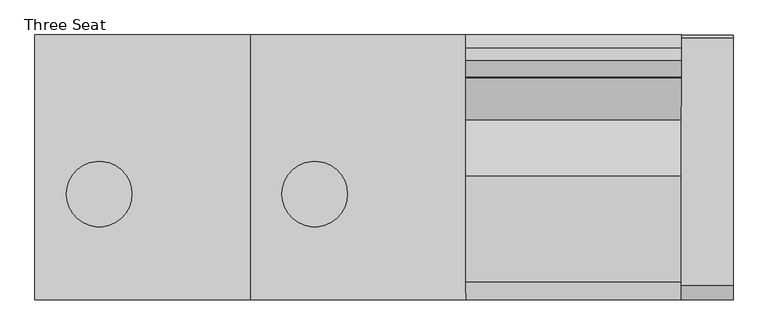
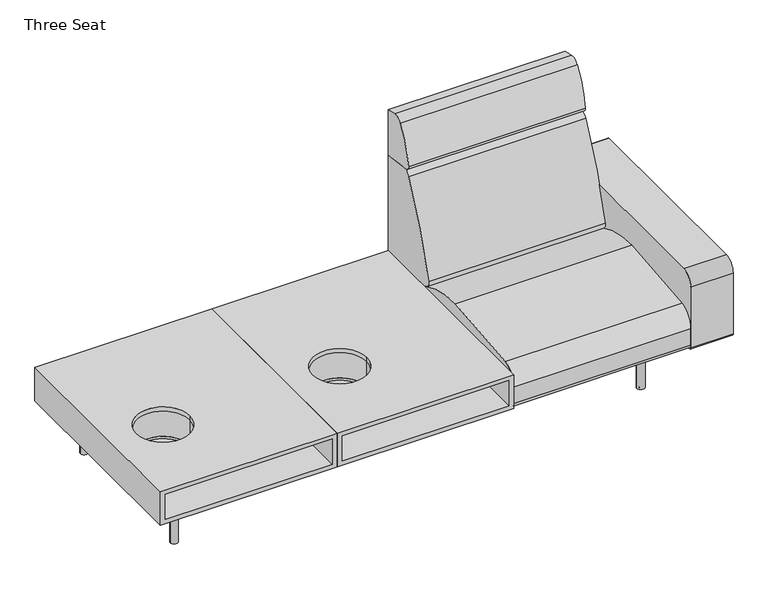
"""IFC4 building model written with IfcOpenShell, lengths in millimetres: furniture geometry, Coalesse_AM_Seating_LoungeChair_Sistema_LegBase_ThreeSeat : Three Seat."""

import ifcopenshell
import ifcopenshell.guid

model = None  # the IFC model being written
_history = None  # IfcOwnerHistory: only IFC2X3 demands one
_inside = {}  # id of a spatial element -> (the spatial element, [elements in it])
_under = {}  # id of a project, library or spatial element -> (it, [spatial elements below it])
_declared = {}  # id of a project -> (the project, [libraries it declares])
_typed = {}  # id of a type object -> (the type object, [elements of that type])
_made_of = {}  # id of a material, layer set ... -> (it, [elements and type objects made of it])


def new_model(schema):
    """Start an empty IFC model of exactly this schema.

    Asked for "IFC4X3", IfcOpenShell would pick the latest addendum, in which some entities
    have other attributes; the version numbers below select the first issue.
    IFC2X3 requires an IfcOwnerHistory on every rooted entity: one is made here for all.
    """
    global model, _history
    if schema == "IFC4X3":
        model = ifcopenshell.file(schema_version=(4, 3, 0, 0))
    else:
        model = ifcopenshell.file(schema=schema)
    _inside.clear()
    _under.clear()
    _declared.clear()
    _typed.clear()
    _made_of.clear()
    _history = None
    if model.schema == "IFC2X3":
        org = make("IfcOrganization", Name="unknown")
        user = make(
            "IfcPersonAndOrganization",
            ThePerson=make("IfcPerson", FamilyName="unknown"),
            TheOrganization=org,
        )
        app = make(
            "IfcApplication",
            ApplicationDeveloper=org,
            Version="unknown",
            ApplicationFullName="unknown",
            ApplicationIdentifier="unknown",
        )
        _history = make(
            "IfcOwnerHistory",
            OwningUser=user,
            OwningApplication=app,
            ChangeAction="ADDED",
            CreationDate=0,
        )
    return model


def make(cls, **values):
    """One entity of the class cls with the attributes given. An attribute that is None is left unset."""
    return model.create_entity(
        cls, **{name: value for name, value in values.items() if value is not None}
    )


def rooted(cls, **values):
    """An entity with a GlobalId (a new one), such as an element, a storey or a relation."""
    return make(cls, GlobalId=ifcopenshell.guid.new(), OwnerHistory=_history, **values)


def si_unit(unit_type, name, prefix=None):
    """IfcSIUnit, for example si_unit("LENGTHUNIT", "METRE", prefix="MILLI")."""
    return make("IfcSIUnit", UnitType=unit_type, Prefix=prefix, Name=name)


def assignment(units):
    """IfcUnitAssignment: the units of a project."""
    return None if units is None else make("IfcUnitAssignment", Units=units)


def point(xyz):
    """IfcCartesianPoint."""
    return None if xyz is None else make("IfcCartesianPoint", Coordinates=xyz)


def direction(xyz):
    """IfcDirection."""
    return None if xyz is None else make("IfcDirection", DirectionRatios=xyz)


def frame(location, z_axis=None, x_axis=None):
    """IfcAxis2Placement3D, a coordinate frame: its origin and axes. An axis left out is left unset."""
    return make(
        "IfcAxis2Placement3D",
        Location=point(location),
        Axis=direction(z_axis),
        RefDirection=direction(x_axis),
    )


def frame_2d(location, x_axis=None):
    """IfcAxis2Placement2D, a coordinate frame in the plane: its origin and x axis."""
    return make(
        "IfcAxis2Placement2D", Location=point(location), RefDirection=direction(x_axis)
    )


def origin():
    """The frame at (0, 0, 0) with its axes left unset."""
    return frame((0.0, 0.0, 0.0))


def origin_with_axes():
    """The frame at (0, 0, 0) with the z axis (0, 0, 1) and the x axis (1, 0, 0) written out."""
    return frame((0.0, 0.0, 0.0), z_axis=(0.0, 0.0, 1.0), x_axis=(1.0, 0.0, 0.0))


def place(relative_to, where):
    """IfcLocalPlacement: puts the frame where relative to a parent placement (None: the world)."""
    return make(
        "IfcLocalPlacement", PlacementRelTo=relative_to, RelativePlacement=where
    )


def context(
    kind, dimensions, precision=None, world=None, true_north=None, identifier=None
):
    """IfcGeometricRepresentationContext, for example the 3D "Model" context."""
    return make(
        "IfcGeometricRepresentationContext",
        ContextIdentifier=identifier,
        ContextType=kind,
        CoordinateSpaceDimension=dimensions,
        Precision=precision,
        WorldCoordinateSystem=world,
        TrueNorth=true_north,
    )


def project(units=None, contexts=None):
    """IfcProject with its units and contexts."""
    return rooted(
        "IfcProject",
        Name="project",
        RepresentationContexts=contexts,
        UnitsInContext=assignment(units),
    )


def spatial(cls, under=None, at=None, **own):
    """A site, building, storey or space (cls), placed at a placement, below another one or the project."""
    s = rooted(cls, ObjectPlacement=at, **own)
    if under is not None:
        _under.setdefault(under.id(), (under, []))[1].append(s)
    return s


def polyline(points):
    """IfcPolyline through the points."""
    return make("IfcPolyline", Points=[point(p) for p in points])


def circle_curve(where, radius):
    """IfcCircle in the frame where."""
    return make("IfcCircle", Position=where, Radius=radius)


def trimmed(basis, trim1, trim2, sense, master):
    """IfcTrimmedCurve: the piece of a basis curve between two trims."""
    return make(
        "IfcTrimmedCurve",
        BasisCurve=basis,
        Trim1=trim1,
        Trim2=trim2,
        SenseAgreement=sense,
        MasterRepresentation=master,
    )


def segment(curve, same_sense, transition):
    """IfcCompositeCurveSegment."""
    return make(
        "IfcCompositeCurveSegment",
        Transition=transition,
        SameSense=same_sense,
        ParentCurve=curve,
    )


def composite_curve(segments, self_intersect=None):
    """IfcCompositeCurve: segments joined end to end."""
    return make("IfcCompositeCurve", Segments=segments, SelfIntersect=self_intersect)


def outline(outer, holes=None, kind="AREA"):
    """IfcArbitraryClosedProfileDef: a profile drawn as a closed curve; with holes, ...WithVoids."""
    if holes is None:
        return make("IfcArbitraryClosedProfileDef", ProfileType=kind, OuterCurve=outer)
    return make(
        "IfcArbitraryProfileDefWithVoids",
        ProfileType=kind,
        OuterCurve=outer,
        InnerCurves=holes,
    )


def extrude(swept, where, along, depth):
    """IfcExtrudedAreaSolid: the profile swept, set in the frame where, extruded along a direction by depth."""
    return make(
        "IfcExtrudedAreaSolid",
        SweptArea=swept,
        Position=where,
        ExtrudedDirection=direction(along),
        Depth=depth,
    )


def shape(context_of_items, identifier, shape_type, items):
    """IfcShapeRepresentation: the items that make up one representation, for example the "Body"."""
    return make(
        "IfcShapeRepresentation",
        ContextOfItems=context_of_items,
        RepresentationIdentifier=identifier,
        RepresentationType=shape_type,
        Items=items,
    )


def source(mapping_origin, context_of_items, identifier, shape_type, items):
    """IfcRepresentationMap: a shape defined once, which mapped items show again and again."""
    return make(
        "IfcRepresentationMap",
        MappingOrigin=mapping_origin,
        MappedRepresentation=shape(context_of_items, identifier, shape_type, items),
    )


def transform(
    local_origin,
    x_axis=None,
    y_axis=None,
    z_axis=None,
    scale=None,
    scale2=None,
    scale3=None,
    uniform=True,
):
    """IfcCartesianTransformationOperator3D, or its non-uniform kind. x_axis, y_axis, z_axis: its Axis1, 2, 3."""
    if uniform:
        return make(
            "IfcCartesianTransformationOperator3D",
            Axis1=direction(x_axis),
            Axis2=direction(y_axis),
            LocalOrigin=point(local_origin),
            Scale=scale,
            Axis3=direction(z_axis),
        )
    return make(
        "IfcCartesianTransformationOperator3DnonUniform",
        Axis1=direction(x_axis),
        Axis2=direction(y_axis),
        LocalOrigin=point(local_origin),
        Scale=scale,
        Axis3=direction(z_axis),
        Scale2=scale2,
        Scale3=scale3,
    )


def mapped(mapping_source, mapping_target):
    """IfcMappedItem: shows the shape of a source again, moved by a transform."""
    return make(
        "IfcMappedItem", MappingSource=mapping_source, MappingTarget=mapping_target
    )


def made_of(thing, what):
    """Note that an element or type object is made of a material, layer set ...; save() writes the relation."""
    if what is not None:
        _made_of.setdefault(what.id(), (what, []))[1].append(thing)
    return thing


def element(
    cls,
    number,
    at=None,
    inside=None,
    cuts=None,
    type_object=None,
    material=None,
    context=None,
    identifier="Body",
    shape_type=None,
    held_by="IfcProductDefinitionShape",
    body=None,
    shapes=None,
    **own,
):
    """One element of the class cls, such as IfcWall. Its Tag is "e" and its number.

    at: its placement. inside: the storey or other place that contains it. cuts: it is an
    opening in that element (IfcRelVoidsElement). A single representation is given by context,
    identifier, shape_type and body (its items); several are given by shapes. held_by: the class
    of the entity that holds the representations. save() writes the other relations.
    """
    e = rooted(cls, Tag="e%d" % number, ObjectPlacement=at, **own)
    if body is not None:
        shapes = [shape(context, identifier, shape_type, body)]
    if shapes is not None:
        e.Representation = make(held_by, Representations=shapes)
    if inside is not None:
        _inside.setdefault(inside.id(), (inside, []))[1].append(e)
    if cuts is not None:
        rooted(
            "IfcRelVoidsElement", RelatingBuildingElement=cuts, RelatedOpeningElement=e
        )
    if type_object is not None:
        _typed.setdefault(type_object.id(), (type_object, []))[1].append(e)
    return made_of(e, material)


def aggregate(whole, parts):
    """IfcRelAggregates: a whole, such as a stair, and the parts it consists of."""
    return rooted("IfcRelAggregates", RelatingObject=whole, RelatedObjects=parts)


def save(model, path):
    """Write the relations noted so far, then the file.

    IfcRelAggregates (storeys below a building ...), IfcRelContainedInSpatialStructure (elements
    in a storey), IfcRelDefinesByType, IfcRelAssociatesMaterial and IfcRelDeclares: one each for
    every whole, place, type object, material and project.
    """
    for whole, parts in _under.values():
        aggregate(whole, parts)
    for where, things in _inside.values():
        rooted(
            "IfcRelContainedInSpatialStructure",
            RelatedElements=things,
            RelatingStructure=where,
        )
    for kind, things in _typed.values():
        rooted("IfcRelDefinesByType", RelatedObjects=things, RelatingType=kind)
    for what, things in _made_of.values():
        rooted("IfcRelAssociatesMaterial", RelatedObjects=things, RelatingMaterial=what)
    for by, libraries in _declared.values():
        rooted("IfcRelDeclares", RelatingContext=by, RelatedDefinitions=libraries)
    model.write(path)


def plane_surface(at):
    """IfcPlane: the flat surface through the origin of the frame at, square to its z axis."""
    return make("IfcPlane", Position=at)


def revolved_surface(curve, axis_point, axis_direction):
    """IfcSurfaceOfRevolution: the curve turned about the line through axis_point along axis_direction."""
    return make(
        "IfcSurfaceOfRevolution",
        SweptCurve=make("IfcArbitraryOpenProfileDef", ProfileType="CURVE", Curve=curve),
        AxisPosition=make("IfcAxis1Placement", Location=point(axis_point), Axis=direction(axis_direction)),
    )


def advanced_brep(points, edges, surfaces, faces):
    """IfcAdvancedBrep: a solid bounded by faces that lie on surfaces and meet in shared edges.

    An edge is (start, end): straight between two places in points (the first is 0);
    or (start, end, curve); or (start, end, curve, False) where it runs against its curve.
    A face is (place in surfaces, loops), or (place, loops, False) where it looks against
    its surface's normal. A loop lists edges by number (the first is 1), with a minus sign
    where the edge is run from its end to its start. The first loop is the outer one.
    """
    corners = [point(p) for p in points]
    vertices = [make("IfcVertexPoint", VertexGeometry=c) for c in corners]
    made = []
    for start, end, *more in edges:
        made.append(
            make(
                "IfcEdgeCurve",
                EdgeStart=vertices[start],
                EdgeEnd=vertices[end],
                EdgeGeometry=more[0] if more else make("IfcPolyline", Points=[corners[start], corners[end]]),
                SameSense=more[1] if len(more) > 1 else True,
            )
        )
    hull = []
    for where, loops, *sense in faces:
        bounds = []
        for j, loop in enumerate(loops):
            ring = [make("IfcOrientedEdge", EdgeElement=made[abs(k) - 1], Orientation=k > 0) for k in loop]
            bounds.append(
                make(
                    "IfcFaceOuterBound" if j == 0 else "IfcFaceBound",
                    Bound=make("IfcEdgeLoop", EdgeList=ring),
                    Orientation=True,
                )
            )
        hull.append(make("IfcAdvancedFace", Bounds=bounds, FaceSurface=surfaces[where], SameSense=sense[0] if sense else True))
    return make("IfcAdvancedBrep", Outer=make("IfcClosedShell", CfsFaces=hull))


def three_seat_0f8700ea(model_context):
    return source(origin(), model_context, "Body", "SolidModel", [
        advanced_brep(
        [(-353.0071698, -461.2704381, 336.5211742), (-353.0071698, -461.2704381, 223.173587), (-353.0071698, 459.4795619, 223.173587), (-353.0071698, 459.4795619, 336.5211742), (353.6069667, -461.2704381, 336.5211742), (353.6069667, 459.4795619, 336.5211742), (-37.7047777, -93.7879891, 336.5211742), (-265.0667966, -93.7879891, 336.5211742), (374.4965227, -461.2704381, 354.7774), (-374.8034773, -461.2704381, 354.7774), (-374.8034773, -461.2704381, 204.47), (374.4965227, -461.2704381, 204.47), (353.6069667, -461.2704381, 223.173587), (374.4965227, 459.4795619, 354.7774), (374.4965227, 459.4795619, 204.47), (-374.8034773, 459.4795619, 204.47), (-374.8034773, 459.4795619, 354.7774), (353.6069667, 459.4795619, 223.173587), (-265.0667966, -93.7879891, 354.7774), (-37.7047777, -93.7879891, 354.7774), (-265.0667966, -93.7879891, 223.173587), (-37.7047777, -93.7879891, 223.173587), (-265.0667966, -93.7879891, 212.4123377), (-37.7047777, -93.7879891, 212.4123377)],
        [
            (0, 1),
            (1, 2),
            (2, 3),
            (3, 0),
            (4, 0),
            (3, 5),
            (5, 4),
            (6, 7, circle_curve(frame((-151.3857872, -93.7879891, 336.5211742), z_axis=(0.0, 0.0, 1.0), x_axis=(1.0, 0.0, 0.0)), 113.6810095)),
            (7, 6, circle_curve(frame((-151.3857872, -93.7879891, 336.5211742), z_axis=(0.0, 0.0, 1.0), x_axis=(1.0, 0.0, 0.0)), 113.6810095)),
            (8, 9),
            (9, 10),
            (10, 11),
            (11, 8),
            (4, 12),
            (12, 1),
            (13, 14),
            (14, 15),
            (15, 16),
            (16, 13),
            (2, 17),
            (17, 5),
            (8, 13),
            (16, 9),
            (18, 19, circle_curve(frame((-151.3857872, -93.7879891, 354.7774), z_axis=(0.0, 0.0, -1.0), x_axis=(1.0, 0.0, 0.0)), 113.6810095)),
            (19, 18, circle_curve(frame((-151.3857872, -93.7879891, 354.7774), z_axis=(0.0, 0.0, -1.0), x_axis=(1.0, 0.0, 0.0)), 113.6810095)),
            (15, 10),
            (14, 11),
            (17, 12),
            (20, 21, circle_curve(frame((-151.3857872, -93.7879891, 223.173587), z_axis=(0.0, 0.0, -1.0), x_axis=(1.0, 0.0, 0.0)), 113.6810095)),
            (21, 20, circle_curve(frame((-151.3857872, -93.7879891, 223.173587), z_axis=(0.0, 0.0, -1.0), x_axis=(1.0, 0.0, 0.0)), 113.6810095)),
            (22, 23, circle_curve(frame((-151.3857872, -93.7879891, 212.4123377), z_axis=(0.0, 0.0, 1.0), x_axis=(1.0, 0.0, 0.0)), 113.6810095)),
            (23, 22, circle_curve(frame((-151.3857872, -93.7879891, 212.4123377), z_axis=(0.0, 0.0, 1.0), x_axis=(1.0, 0.0, 0.0)), 113.6810095)),
            (23, 21),
            (20, 22),
            (18, 7),
            (6, 19),
        ],
        [
            plane_surface(frame((-353.0071698, -461.2704381, 223.173587), z_axis=(1.0, 0.0, 0.0), x_axis=(0.0, 1.0, 0.0))),
            plane_surface(frame((-353.0071698, -461.2704381, 336.5211742), z_axis=(0.0, 0.0, -1.0), x_axis=(0.0, 1.0, 0.0))),
            plane_surface(frame((-371.2653576, -461.2704381, 354.7774), z_axis=(0.0, -1.0, 0.0), x_axis=(-1.0, 0.0, 0.0))),
            plane_surface(frame((-371.2653576, 459.4795619, 354.7774), z_axis=(0.0, 1.0, 0.0), x_axis=(1.0, 0.0, 0.0))),
            plane_surface(frame((374.4965227, -461.2704381, 354.7774), z_axis=(0.0, 0.0, 1.0), x_axis=(0.0, 1.0, 0.0))),
            plane_surface(frame((-374.8034773, -461.2704381, 354.7774), z_axis=(-1.0, 0.0, 0.0), x_axis=(0.0, 1.0, 0.0))),
            plane_surface(frame((-374.8034773, -461.2704381, 204.47), z_axis=(0.0, 0.0, -1.0), x_axis=(0.0, 1.0, 0.0))),
            plane_surface(frame((374.4965227, -461.2704381, 204.47), z_axis=(1.0, 0.0, 0.0), x_axis=(0.0, 1.0, 0.0))),
            plane_surface(frame((353.6069667, -461.2704381, 336.5211742), z_axis=(-1.0, 0.0, 0.0), x_axis=(0.0, 1.0, 0.0))),
            plane_surface(frame((353.6069667, -461.2704381, 223.173587), z_axis=(0.0, 0.0, 1.0), x_axis=(0.0, 1.0, 0.0))),
            plane_surface(frame((-37.7047777, -93.7879891, 212.4123377), z_axis=(0.0, 0.0, 1.0), x_axis=(0.0, -1.0, 0.0))),
            revolved_surface(polyline([(-37.70477770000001, -93.7879891, 212.4123377), (-37.70477770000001, -93.7879891, 223.173587)]), (-151.3857872, -93.7879891, 446.6108932), (0.0, 0.0, -1.0)),
            revolved_surface(polyline([(-37.70477770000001, -93.7879891, 336.5211742), (-37.70477770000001, -93.7879891, 354.7774)]), (-151.3857872, -93.7879891, 446.6108932), (0.0, 0.0, -1.0)),
        ],
        [
            (0, [[1, 2, 3, 4]]),
            (1, [[5, -4, 6, 7], [8, 9]]),
            (2, [[10, 11, 12, 13], [14, 15, -1, -5]]),
            (3, [[16, 17, 18, 19], [-6, -3, 20, 21]]),
            (4, [[-10, 22, -19, 23], [24, 25]]),
            (5, [[-11, -23, -18, 26]]),
            (6, [[-12, -26, -17, 27]]),
            (7, [[-13, -27, -16, -22]]),
            (8, [[-14, -7, -21, 28]]),
            (9, [[-15, -28, -20, -2], [29, 30]]),
            (10, [[31, 32]]),
            (11, [[-32, 33, -29, 34]]),
            (12, [[35, -8, 36, -24]]),
            (12, [[-35, -25, -36, -9]]),
            (11, [[-31, -34, -30, -33]]),
        ],
    ),
        extrude(outline(composite_curve([segment(trimmed(circle_curve(frame_2d((-151.3857872, -93.7879891)), 127.924967), [point((-279.3107542, -93.7879891))], [point((-23.4608201, -93.7879891))], False, "CARTESIAN"), True, "CONTINUOUS"), segment(trimmed(circle_curve(frame_2d((-151.3857872, -93.7879891)), 127.924967), [point((-23.4608201, -93.7879891))], [point((-279.3107542, -93.7879891))], False, "CARTESIAN"), True, "CONTINUOUS")], self_intersect=False), holes=[composite_curve([segment(trimmed(circle_curve(frame_2d((-151.3857872, -93.7879891)), 113.6810095), [point((-265.0667966, -93.7879891))], [point((-37.7047777, -93.7879891))], True, "CARTESIAN"), True, "CONTINUOUS"), segment(trimmed(circle_curve(frame_2d((-151.3857872, -93.7879891)), 113.6810095), [point((-37.7047777, -93.7879891))], [point((-265.0667966, -93.7879891))], True, "CARTESIAN"), True, "CONTINUOUS")], self_intersect=False)]), frame((0.0, 0.0, 212.4123377), z_axis=(0.0, 0.0, 1.0), x_axis=(1.0, 0.0, 0.0)), (0.0, 0.0, 1.0), 124.1087275),
        advanced_brep(
        [(1102.9069667, -461.2704381, 336.5211742), (396.2928302, -461.2704381, 336.5211742), (396.2928302, 459.4795619, 336.5211742), (1102.9069667, 459.4795619, 336.5211742), (711.5952223, -93.7879891, 336.5211742), (484.2332034, -93.7879891, 336.5211742), (396.2928302, -461.2704381, 223.173587), (396.2928302, 459.4795619, 223.173587), (1123.7965227, -461.2704381, 354.7774), (374.4965227, -461.2704381, 354.7774), (374.4965227, -461.2704381, 204.47), (1123.7965227, -461.2704381, 204.47), (1102.9069667, -461.2704381, 223.173587), (1123.7965227, 459.4795619, 354.7774), (1123.7965227, 459.4795619, 204.47), (374.4965227, 459.4795619, 204.47), (374.4965227, 459.4795619, 354.7774), (1102.9069667, 459.4795619, 223.173587), (484.2332034, -93.7879891, 354.7774), (711.5952223, -93.7879891, 354.7774), (484.2332034, -93.7879891, 223.173587), (711.5952223, -93.7879891, 223.173587), (484.2332034, -93.7879891, 212.4123377), (711.5952223, -93.7879891, 212.4123377)],
        [
            (0, 1),
            (1, 2),
            (2, 3),
            (3, 0),
            (4, 5, circle_curve(frame((597.9142128, -93.7879891, 336.5211742), z_axis=(0.0, 0.0, 1.0), x_axis=(1.0, 0.0, 0.0)), 113.6810095)),
            (5, 4, circle_curve(frame((597.9142128, -93.7879891, 336.5211742), z_axis=(0.0, 0.0, 1.0), x_axis=(1.0, 0.0, 0.0)), 113.6810095)),
            (1, 6),
            (6, 7),
            (7, 2),
            (8, 9),
            (9, 10),
            (10, 11),
            (11, 8),
            (0, 12),
            (12, 6),
            (13, 14),
            (14, 15),
            (15, 16),
            (16, 13),
            (7, 17),
            (17, 3),
            (8, 13),
            (16, 9),
            (18, 19, circle_curve(frame((597.9142128, -93.7879891, 354.7774), z_axis=(0.0, 0.0, -1.0), x_axis=(1.0, 0.0, 0.0)), 113.6810095)),
            (19, 18, circle_curve(frame((597.9142128, -93.7879891, 354.7774), z_axis=(0.0, 0.0, -1.0), x_axis=(1.0, 0.0, 0.0)), 113.6810095)),
            (15, 10),
            (14, 11),
            (17, 12),
            (20, 21, circle_curve(frame((597.9142128, -93.7879891, 223.173587), z_axis=(0.0, 0.0, -1.0), x_axis=(1.0, 0.0, 0.0)), 113.6810095)),
            (21, 20, circle_curve(frame((597.9142128, -93.7879891, 223.173587), z_axis=(0.0, 0.0, -1.0), x_axis=(1.0, 0.0, 0.0)), 113.6810095)),
            (22, 23, circle_curve(frame((597.9142128, -93.7879891, 212.4123377), z_axis=(0.0, 0.0, 1.0), x_axis=(1.0, 0.0, 0.0)), 113.6810095)),
            (23, 22, circle_curve(frame((597.9142128, -93.7879891, 212.4123377), z_axis=(0.0, 0.0, 1.0), x_axis=(1.0, 0.0, 0.0)), 113.6810095)),
            (23, 21),
            (20, 22),
            (18, 5),
            (4, 19),
        ],
        [
            plane_surface(frame((396.2928302, -461.2704381, 336.5211742), z_axis=(0.0, 0.0, -1.0), x_axis=(0.0, 1.0, 0.0))),
            plane_surface(frame((396.2928302, -461.2704381, 223.173587), z_axis=(1.0, 0.0, 0.0), x_axis=(0.0, 1.0, 0.0))),
            plane_surface(frame((378.0346424, -461.2704381, 354.7774), z_axis=(0.0, -1.0, 0.0), x_axis=(-1.0, 0.0, 0.0))),
            plane_surface(frame((378.0346424, 459.4795619, 354.7774), z_axis=(0.0, 1.0, 0.0), x_axis=(1.0, 0.0, 0.0))),
            plane_surface(frame((1123.7965227, -461.2704381, 354.7774), z_axis=(0.0, 0.0, 1.0), x_axis=(0.0, 1.0, 0.0))),
            plane_surface(frame((374.4965227, -461.2704381, 354.7774), z_axis=(-1.0, 0.0, 0.0), x_axis=(0.0, 1.0, 0.0))),
            plane_surface(frame((374.4965227, -461.2704381, 204.47), z_axis=(0.0, 0.0, -1.0), x_axis=(0.0, 1.0, 0.0))),
            plane_surface(frame((1123.7965227, -461.2704381, 204.47), z_axis=(1.0, 0.0, 0.0), x_axis=(0.0, 1.0, 0.0))),
            plane_surface(frame((1102.9069667, -461.2704381, 336.5211742), z_axis=(-1.0, 0.0, 0.0), x_axis=(0.0, 1.0, 0.0))),
            plane_surface(frame((1102.9069667, -461.2704381, 223.173587), z_axis=(0.0, 0.0, 1.0), x_axis=(0.0, 1.0, 0.0))),
            plane_surface(frame((711.5952223, -93.7879891, 212.4123377), z_axis=(0.0, 0.0, 1.0), x_axis=(0.0, -1.0, 0.0))),
            revolved_surface(polyline([(711.5952222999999, -93.7879891, 212.41233770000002), (711.5952222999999, -93.7879891, 223.173587)]), (597.9142128, -93.7879891, 496.2226929), (0.0, 0.0, -1.0)),
            revolved_surface(polyline([(711.5952222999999, -93.7879891, 336.5211742), (711.5952222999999, -93.7879891, 354.7774)]), (597.9142128, -93.7879891, 496.2226929), (0.0, 0.0, -1.0)),
        ],
        [
            (0, [[1, 2, 3, 4], [5, 6]]),
            (1, [[7, 8, 9, -2]]),
            (2, [[10, 11, 12, 13], [14, 15, -7, -1]]),
            (3, [[16, 17, 18, 19], [-3, -9, 20, 21]]),
            (4, [[-10, 22, -19, 23], [24, 25]]),
            (5, [[-11, -23, -18, 26]]),
            (6, [[-12, -26, -17, 27]]),
            (7, [[-13, -27, -16, -22]]),
            (8, [[-14, -4, -21, 28]]),
            (9, [[-15, -28, -20, -8], [29, 30]]),
            (10, [[31, 32]]),
            (11, [[-32, 33, -29, 34]]),
            (12, [[35, -5, 36, -24]]),
            (11, [[-31, -34, -30, -33]]),
            (12, [[-35, -25, -36, -6]]),
        ],
    ),
        extrude(outline(composite_curve([segment(trimmed(circle_curve(frame_2d((597.9142128, -93.7879891)), 127.924967), [point((469.9892458, -93.7879891))], [point((725.8391799, -93.7879891))], False, "CARTESIAN"), True, "CONTINUOUS"), segment(trimmed(circle_curve(frame_2d((597.9142128, -93.7879891)), 127.924967), [point((725.8391799, -93.7879891))], [point((469.9892458, -93.7879891))], False, "CARTESIAN"), True, "CONTINUOUS")], self_intersect=False), holes=[composite_curve([segment(trimmed(circle_curve(frame_2d((597.9142128, -93.7879891)), 113.6810095), [point((484.2332034, -93.7879891))], [point((711.5952223, -93.7879891))], True, "CARTESIAN"), True, "CONTINUOUS"), segment(trimmed(circle_curve(frame_2d((597.9142128, -93.7879891)), 113.6810095), [point((711.5952223, -93.7879891))], [point((484.2332034, -93.7879891))], True, "CARTESIAN"), True, "CONTINUOUS")], self_intersect=False)]), frame((0.0, 0.0, 212.4123377), z_axis=(0.0, 0.0, 1.0), x_axis=(1.0, 0.0, 0.0)), (0.0, 0.0, 1.0), 124.1087275),
        extrude(outline(composite_curve([segment(polyline([(-461.2704381, 212.4103341), (-461.2704381, 487.0244726)]), True, "CONTINUOUS"), segment(trimmed(circle_curve(frame_2d((-410.4704381, 487.0244726)), 50.8), [point((-461.2704381, 487.0244726))], [point((-410.4704381, 537.8244726))], False, "CARTESIAN"), True, "CONTINUOUS"), segment(polyline([(-410.4704381, 537.8244726), (450.1139321, 537.8244726)]), True, "CONTINUOUS"), segment(trimmed(circle_curve(frame_2d((450.1139321, 530.2044726)), 7.62), [point((450.1139321, 537.8244726))], [point((457.7339321, 530.2044726))], False, "CARTESIAN"), True, "CONTINUOUS"), segment(polyline([(457.7339321, 530.2044726), (457.7339321, 217.4903341)]), True, "CONTINUOUS"), segment(trimmed(circle_curve(frame_2d((445.0339321, 217.4903341)), 12.7), [point((457.7339321, 217.4903341))], [point((445.0339321, 204.7903341))], False, "CARTESIAN"), True, "CONTINUOUS"), segment(polyline([(445.0339321, 204.7903341), (-453.6504381, 204.7903341)]), True, "CONTINUOUS"), segment(trimmed(circle_curve(frame_2d((-453.6504381, 212.4103341)), 7.62), [point((-453.6504381, 204.7903341))], [point((-461.2704381, 212.4103341))], False, "CARTESIAN"), True, "CONTINUOUS")], self_intersect=False)), frame((1873.0965227, 0.0, 0.0), z_axis=(1.0, 0.0, 0.0), x_axis=(0.0, 1.0, 0.0)), (0.0, 0.0, 1.0), 179.5663651),
        extrude(outline(composite_curve([segment(polyline([(459.4795619, 985.4592709), (459.4795619, 780.845009), (327.9700683, 799.327463)]), True, "CONTINUOUS"), segment(trimmed(circle_curve(frame_2d((330.6213159, 818.1920697)), 19.05), [point((327.9700683, 799.327463))], [point((311.7521971, 820.8110119))], False, "CARTESIAN"), True, "CONTINUOUS"), segment(trimmed(circle_curve(frame_2d((679.5815991, 769.7580741)), 371.3554516), [point((311.7521971, 820.8110119))], [point((372.1246101, 978.0249014))], False, "CARTESIAN"), True, "CONTINUOUS"), segment(trimmed(circle_curve(frame_2d((405.8944569, 955.1497055)), 40.7881985), [point((372.1246101, 978.0249014))], [point((414.3748002, 995.046584))], False, "CARTESIAN"), True, "CONTINUOUS"), segment(polyline([(414.3748002, 995.046584), (459.4795619, 985.4592709)]), True, "CONTINUOUS")], self_intersect=False)), frame((1123.7965227, 0.0, 0.0), z_axis=(1.0, 0.0, 0.0), x_axis=(0.0, 1.0, 0.0)), (0.0, 0.0, 1.0), 749.3),
        extrude(outline(composite_curve([segment(polyline([(459.4795619, 780.845009), (459.4795619, 228.1929806)]), True, "CONTINUOUS"), segment(trimmed(circle_curve(frame_2d((191.495971, 228.1929806)), 267.983591), [point((459.4795619, 228.1929806))], [point((458.9860775, 211.937276))], False, "CARTESIAN"), True, "CONTINUOUS"), segment(polyline([(458.9860775, 211.937276), (177.4990556, 364.1028799)]), True, "CONTINUOUS"), segment(trimmed(circle_curve(frame_2d((189.5778307, 386.4470781)), 25.4), [point((177.4990556, 364.1028799))], [point((164.9600055, 392.7018911))], False, "CARTESIAN"), True, "CONTINUOUS"), segment(trimmed(circle_curve(frame_2d((1918.112812, -52.7331923)), 1808.8552115), [point((164.9600055, 392.7018911))], [point((310.2880264, 776.0349508))], False, "CARTESIAN"), True, "CONTINUOUS"), segment(trimmed(circle_curve(frame_2d((344.1537133, 758.5785695)), 38.1), [point((310.2880264, 776.0349508))], [point((349.4562085, 796.3077829))], False, "CARTESIAN"), True, "CONTINUOUS"), segment(polyline([(349.4562085, 796.3077829), (459.4795619, 780.845009)]), True, "CONTINUOUS")], self_intersect=False)), frame((1123.7965227, 0.0, 0.0), z_axis=(1.0, 0.0, 0.0), x_axis=(0.0, 1.0, 0.0)), (0.0, 0.0, 1.0), 749.3),
        extrude(outline(composite_curve([segment(trimmed(circle_curve(frame_2d((-438.9184381, 226.822)), 22.352), [point((-438.9184381, 204.47))], [point((-461.2704381, 226.822))], False, "CARTESIAN"), True, "CONTINUOUS"), segment(polyline([(-461.2704381, 226.822), (-461.2704381, 301.4421993)]), True, "CONTINUOUS"), segment(trimmed(circle_curve(frame_2d((-385.0704381, 301.4421993)), 76.2), [point((-461.2704381, 301.4421993))], [point((-398.9277015, 376.3716077))], False, "CARTESIAN"), True, "CONTINUOUS"), segment(trimmed(circle_curve(frame_2d((2.2103559, -1792.6740646)), 2205.8265729), [point((-398.9277015, 376.3716077))], [point((-31.1968175, 412.8995185))], False, "CARTESIAN"), True, "CONTINUOUS"), segment(trimmed(circle_curve(frame_2d((-24.5128424, -28.3829182)), 441.333054), [point((-31.1968175, 412.8995185))], [point((184.5757008, 360.2774035))], False, "CARTESIAN"), True, "CONTINUOUS"), segment(polyline([(184.5757008, 360.2774035), (458.9860775, 211.937276)]), True, "CONTINUOUS"), segment(trimmed(circle_curve(frame_2d((442.3266309, 226.7871991)), 22.3171991), [point((458.9860775, 211.937276))], [point((442.3266309, 204.47))], False, "CARTESIAN"), True, "CONTINUOUS"), segment(polyline([(442.3266309, 204.47), (-438.9184381, 204.47)]), True, "CONTINUOUS")], self_intersect=False)), frame((1123.7965227, 0.0, 0.0), z_axis=(1.0, 0.0, 0.0), x_axis=(0.0, 1.0, 0.0)), (0.0, 0.0, 1.0), 749.3),
        extrude(outline(composite_curve([segment(trimmed(circle_curve(frame_2d((1738.4765227, 335.9943389)), 6.096), [point((1744.5725227, 335.9943389))], [point((1732.3805227, 335.9943389))], False, "CARTESIAN"), True, "CONTINUOUS"), segment(trimmed(circle_curve(frame_2d((1738.4765227, 335.9943389)), 6.096), [point((1732.3805227, 335.9943389))], [point((1744.5725227, 335.9943389))], False, "CARTESIAN"), True, "CONTINUOUS")], self_intersect=False)), origin_with_axes(), (0.0, 0.0, 1.0), 4.3662291),
        extrude(outline(composite_curve([segment(trimmed(circle_curve(frame_2d((1738.4765227, -327.2630889)), 6.096), [point((1744.5725227, -327.2630889))], [point((1732.3805227, -327.2630889))], False, "CARTESIAN"), True, "CONTINUOUS"), segment(trimmed(circle_curve(frame_2d((1738.4765227, -327.2630889)), 6.096), [point((1732.3805227, -327.2630889))], [point((1744.5725227, -327.2630889))], False, "CARTESIAN"), True, "CONTINUOUS")], self_intersect=False)), origin_with_axes(), (0.0, 0.0, 1.0), 4.3662291),
        extrude(outline(composite_curve([segment(polyline([(157.0399209, 1751.056375), (201.7356243, 1751.056375)]), True, "CONTINUOUS"), segment(trimmed(circle_curve(frame_2d((201.7356243, 1748.008375)), 3.048), [point((201.7356243, 1751.056375))], [point((204.7836243, 1748.008375))], False, "CARTESIAN"), True, "CONTINUOUS"), segment(polyline([(204.7836243, 1748.008375), (204.7836243, 1728.666199)]), True, "CONTINUOUS"), segment(trimmed(circle_curve(frame_2d((201.7356243, 1728.666199)), 3.048), [point((204.7836243, 1728.666199))], [point((201.7356243, 1725.618199))], False, "CARTESIAN"), True, "CONTINUOUS"), segment(polyline([(201.7356243, 1725.618199), (157.1249936, 1725.618199)]), True, "CONTINUOUS"), segment(trimmed(circle_curve(frame_2d((157.1249936, 1728.7512718)), 3.1330728), [point((157.1249936, 1725.618199))], [point((153.9919209, 1728.7512718))], False, "CARTESIAN"), True, "CONTINUOUS"), segment(polyline([(153.9919209, 1728.7512718), (153.9919209, 1748.008375)]), True, "CONTINUOUS"), segment(trimmed(circle_curve(frame_2d((157.0399209, 1748.008375)), 3.048), [point((153.9919209, 1748.008375))], [point((157.0399209, 1751.056375))], False, "CARTESIAN"), True, "CONTINUOUS")], self_intersect=False)), frame((0.0, 222.3519802, 0.0), z_axis=(0.0, 1.0, 0.0), x_axis=(0.0, 0.0, 1.0)), (0.0, 0.0, 1.0), 92.6273161),
        extrude(outline(composite_curve([segment(polyline([(157.0399209, 1751.056375), (201.7356243, 1751.056375)]), True, "CONTINUOUS"), segment(trimmed(circle_curve(frame_2d((201.7356243, 1748.008375)), 3.048), [point((201.7356243, 1751.056375))], [point((204.7836243, 1748.008375))], False, "CARTESIAN"), True, "CONTINUOUS"), segment(polyline([(204.7836243, 1748.008375), (204.7836243, 1728.666199)]), True, "CONTINUOUS"), segment(trimmed(circle_curve(frame_2d((201.7356243, 1728.666199)), 3.048), [point((204.7836243, 1728.666199))], [point((201.7356243, 1725.618199))], False, "CARTESIAN"), True, "CONTINUOUS"), segment(polyline([(201.7356243, 1725.618199), (157.1249936, 1725.618199)]), True, "CONTINUOUS"), segment(trimmed(circle_curve(frame_2d((157.1249936, 1728.7512718)), 3.1330728), [point((157.1249936, 1725.618199))], [point((153.9919209, 1728.7512718))], False, "CARTESIAN"), True, "CONTINUOUS"), segment(polyline([(153.9919209, 1728.7512718), (153.9919209, 1748.008375)]), True, "CONTINUOUS"), segment(trimmed(circle_curve(frame_2d((157.0399209, 1748.008375)), 3.048), [point((153.9919209, 1748.008375))], [point((157.0399209, 1751.056375))], False, "CARTESIAN"), True, "CONTINUOUS")], self_intersect=False)), frame((0.0, -314.9792963, 0.0), z_axis=(0.0, 1.0, 0.0), x_axis=(0.0, 0.0, 1.0)), (0.0, 0.0, 1.0), 92.6273161),
        extrude(outline(composite_curve([segment(trimmed(circle_curve(frame_2d((176.3356606, 1715.8259944)), 3.048), [point((179.3836606, 1715.8259944))], [point((176.3356606, 1712.7779944))], False, "CARTESIAN"), True, "CONTINUOUS"), segment(polyline([(176.3356606, 1712.7779944), (157.0399209, 1712.7779944)]), True, "CONTINUOUS"), segment(trimmed(circle_curve(frame_2d((157.0399209, 1715.8259944)), 3.048), [point((157.0399209, 1712.7779944))], [point((153.9919209, 1715.8259944))], False, "CARTESIAN"), True, "CONTINUOUS"), segment(polyline([(153.9919209, 1715.8259944), (153.9919209, 1760.5135501)]), True, "CONTINUOUS"), segment(trimmed(circle_curve(frame_2d((157.056462, 1760.5135501)), 3.0645412), [point((153.9919209, 1760.5135501))], [point((157.056462, 1763.5780913))], False, "CARTESIAN"), True, "CONTINUOUS"), segment(polyline([(157.056462, 1763.5780913), (176.3356606, 1763.5780913)]), True, "CONTINUOUS"), segment(trimmed(circle_curve(frame_2d((176.3356606, 1760.5300913)), 3.048), [point((176.3356606, 1763.5780913))], [point((179.3836606, 1760.5300913))], False, "CARTESIAN"), True, "CONTINUOUS"), segment(polyline([(179.3836606, 1760.5300913), (179.3836606, 1715.8259944)]), True, "CONTINUOUS")], self_intersect=False)), frame((0.0, -222.3519802, 0.0), z_axis=(0.0, 1.0, 0.0), x_axis=(0.0, 0.0, 1.0)), (0.0, 0.0, 1.0), 444.7039604),
        extrude(outline(composite_curve([segment(trimmed(circle_curve(frame_2d((1738.4765227, 332.3095741)), 16.51), [point((1754.9865227, 332.3095741))], [point((1721.9665227, 332.3095741))], False, "CARTESIAN"), True, "CONTINUOUS"), segment(trimmed(circle_curve(frame_2d((1738.4765227, 332.3095741)), 16.51), [point((1721.9665227, 332.3095741))], [point((1754.9865227, 332.3095741))], False, "CARTESIAN"), True, "CONTINUOUS")], self_intersect=False)), frame((0.0, 0.0, 4.3662291), z_axis=(0.0, 0.0, 1.0), x_axis=(1.0, 0.0, 0.0)), (0.0, 0.0, 1.0), 200.1037709),
        extrude(outline(composite_curve([segment(trimmed(circle_curve(frame_2d((1738.0796477, -327.5470741)), 16.51), [point((1754.5896477, -327.5470741))], [point((1721.5696477, -327.5470741))], False, "CARTESIAN"), True, "CONTINUOUS"), segment(trimmed(circle_curve(frame_2d((1738.0796477, -327.5470741)), 16.51), [point((1721.5696477, -327.5470741))], [point((1754.5896477, -327.5470741))], False, "CARTESIAN"), True, "CONTINUOUS")], self_intersect=False)), frame((0.0, 0.0, 4.3662291), z_axis=(0.0, 0.0, 1.0), x_axis=(1.0, 0.0, 0.0)), (0.0, 0.0, 1.0), 200.1037709),
        extrude(outline(composite_curve([segment(trimmed(circle_curve(frame_2d((-240.1834773, 335.9943389)), 6.096), [point((-246.2794773, 335.9943389))], [point((-234.0874773, 335.9943389))], False, "CARTESIAN"), True, "CONTINUOUS"), segment(trimmed(circle_curve(frame_2d((-240.1834773, 335.9943389)), 6.096), [point((-234.0874773, 335.9943389))], [point((-246.2794773, 335.9943389))], False, "CARTESIAN"), True, "CONTINUOUS")], self_intersect=False)), origin_with_axes(), (0.0, 0.0, 1.0), 4.3662291),
        extrude(outline(composite_curve([segment(trimmed(circle_curve(frame_2d((-240.1834773, -327.2630889)), 6.096), [point((-246.2794773, -327.2630889))], [point((-234.0874773, -327.2630889))], False, "CARTESIAN"), True, "CONTINUOUS"), segment(trimmed(circle_curve(frame_2d((-240.1834773, -327.2630889)), 6.096), [point((-234.0874773, -327.2630889))], [point((-246.2794773, -327.2630889))], False, "CARTESIAN"), True, "CONTINUOUS")], self_intersect=False)), origin_with_axes(), (0.0, 0.0, 1.0), 4.3662291),
        extrude(outline(composite_curve([segment(trimmed(circle_curve(frame_2d((157.0399209, -249.7153296)), 3.048), [point((157.0399209, -252.7633296))], [point((153.9919209, -249.7153296))], False, "CARTESIAN"), True, "CONTINUOUS"), segment(polyline([(153.9919209, -249.7153296), (153.9919209, -230.4582264)]), True, "CONTINUOUS"), segment(trimmed(circle_curve(frame_2d((157.1249936, -230.4582264)), 3.1330728), [point((153.9919209, -230.4582264))], [point((157.1249936, -227.3251537))], False, "CARTESIAN"), True, "CONTINUOUS"), segment(polyline([(157.1249936, -227.3251537), (201.7356243, -227.3251537)]), True, "CONTINUOUS"), segment(trimmed(circle_curve(frame_2d((201.7356243, -230.3731537)), 3.048), [point((201.7356243, -227.3251537))], [point((204.7836243, -230.3731537))], False, "CARTESIAN"), True, "CONTINUOUS"), segment(polyline([(204.7836243, -230.3731537), (204.7836243, -249.7153296)]), True, "CONTINUOUS"), segment(trimmed(circle_curve(frame_2d((201.7356243, -249.7153296)), 3.048), [point((204.7836243, -249.7153296))], [point((201.7356243, -252.7633296))], False, "CARTESIAN"), True, "CONTINUOUS"), segment(polyline([(201.7356243, -252.7633296), (157.0399209, -252.7633296)]), True, "CONTINUOUS")], self_intersect=False)), frame((0.0, 222.3519802, 0.0), z_axis=(0.0, 1.0, 0.0), x_axis=(0.0, 0.0, 1.0)), (0.0, 0.0, 1.0), 92.6273161),
        extrude(outline(composite_curve([segment(trimmed(circle_curve(frame_2d((157.0399209, -249.7153296)), 3.048), [point((157.0399209, -252.7633296))], [point((153.9919209, -249.7153296))], False, "CARTESIAN"), True, "CONTINUOUS"), segment(polyline([(153.9919209, -249.7153296), (153.9919209, -230.4582264)]), True, "CONTINUOUS"), segment(trimmed(circle_curve(frame_2d((157.1249936, -230.4582264)), 3.1330728), [point((153.9919209, -230.4582264))], [point((157.1249936, -227.3251537))], False, "CARTESIAN"), True, "CONTINUOUS"), segment(polyline([(157.1249936, -227.3251537), (201.7356243, -227.3251537)]), True, "CONTINUOUS"), segment(trimmed(circle_curve(frame_2d((201.7356243, -230.3731537)), 3.048), [point((201.7356243, -227.3251537))], [point((204.7836243, -230.3731537))], False, "CARTESIAN"), True, "CONTINUOUS"), segment(polyline([(204.7836243, -230.3731537), (204.7836243, -249.7153296)]), True, "CONTINUOUS"), segment(trimmed(circle_curve(frame_2d((201.7356243, -249.7153296)), 3.048), [point((204.7836243, -249.7153296))], [point((201.7356243, -252.7633296))], False, "CARTESIAN"), True, "CONTINUOUS"), segment(polyline([(201.7356243, -252.7633296), (157.0399209, -252.7633296)]), True, "CONTINUOUS")], self_intersect=False)), frame((0.0, -314.9792963, 0.0), z_axis=(0.0, 1.0, 0.0), x_axis=(0.0, 0.0, 1.0)), (0.0, 0.0, 1.0), 92.6273161),
        extrude(outline(composite_curve([segment(polyline([(179.3836606, -217.532949), (179.3836606, -262.2370459)]), True, "CONTINUOUS"), segment(trimmed(circle_curve(frame_2d((176.3356606, -262.2370459)), 3.048), [point((179.3836606, -262.2370459))], [point((176.3356606, -265.2850459))], False, "CARTESIAN"), True, "CONTINUOUS"), segment(polyline([(176.3356606, -265.2850459), (157.056462, -265.2850459)]), True, "CONTINUOUS"), segment(trimmed(circle_curve(frame_2d((157.056462, -262.2205047)), 3.0645412), [point((157.056462, -265.2850459))], [point((153.9919209, -262.2205047))], False, "CARTESIAN"), True, "CONTINUOUS"), segment(polyline([(153.9919209, -262.2205047), (153.9919209, -217.532949)]), True, "CONTINUOUS"), segment(trimmed(circle_curve(frame_2d((157.0399209, -217.532949)), 3.048), [point((153.9919209, -217.532949))], [point((157.0399209, -214.484949))], False, "CARTESIAN"), True, "CONTINUOUS"), segment(polyline([(157.0399209, -214.484949), (176.3356606, -214.484949)]), True, "CONTINUOUS"), segment(trimmed(circle_curve(frame_2d((176.3356606, -217.532949)), 3.048), [point((176.3356606, -214.484949))], [point((179.3836606, -217.532949))], False, "CARTESIAN"), True, "CONTINUOUS")], self_intersect=False)), frame((0.0, -222.3519802, 0.0), z_axis=(0.0, 1.0, 0.0), x_axis=(0.0, 0.0, 1.0)), (0.0, 0.0, 1.0), 444.7039604),
        extrude(outline(composite_curve([segment(trimmed(circle_curve(frame_2d((-240.1834773, 332.3095741)), 16.51), [point((-256.6934773, 332.3095741))], [point((-223.6734773, 332.3095741))], False, "CARTESIAN"), True, "CONTINUOUS"), segment(trimmed(circle_curve(frame_2d((-240.1834773, 332.3095741)), 16.51), [point((-223.6734773, 332.3095741))], [point((-256.6934773, 332.3095741))], False, "CARTESIAN"), True, "CONTINUOUS")], self_intersect=False)), frame((0.0, 0.0, 4.3662291), z_axis=(0.0, 0.0, 1.0), x_axis=(1.0, 0.0, 0.0)), (0.0, 0.0, 1.0), 200.1037709),
        extrude(outline(composite_curve([segment(trimmed(circle_curve(frame_2d((-239.7866023, -327.5470741)), 16.51), [point((-256.2966023, -327.5470741))], [point((-223.2766023, -327.5470741))], False, "CARTESIAN"), True, "CONTINUOUS"), segment(trimmed(circle_curve(frame_2d((-239.7866023, -327.5470741)), 16.51), [point((-223.2766023, -327.5470741))], [point((-256.2966023, -327.5470741))], False, "CARTESIAN"), True, "CONTINUOUS")], self_intersect=False)), frame((0.0, 0.0, 4.3662291), z_axis=(0.0, 0.0, 1.0), x_axis=(1.0, 0.0, 0.0)), (0.0, 0.0, 1.0), 200.1037709),
    ])


if __name__ == "__main__":
    model = new_model("IFC4")
    model_context = context("Model", 3, world=origin())
    ifc_project = project(units=[si_unit("LENGTHUNIT", "METRE", prefix="MILLI")], contexts=[model_context])
    site = spatial("IfcSite", under=ifc_project)
    building = spatial("IfcBuilding", under=site)
    placement = place(None, origin())
    three_seat_shape = three_seat_0f8700ea(model_context)
    element("IfcFurniture", 1, ObjectType="Coalesse_AM_Seating_LoungeChair_Sistema_LegBase_ThreeSeat : Three Seat", at=placement, inside=building, context=model_context, shape_type="MappedRepresentation", body=[
        mapped(three_seat_shape, transform((0.0, 0.0, 0.0), x_axis=(1.0, 0.0, 0.0), y_axis=(0.0, 1.0, 0.0), z_axis=(0.0, 0.0, 1.0))),
    ])
    save(model, "model.ifc")
